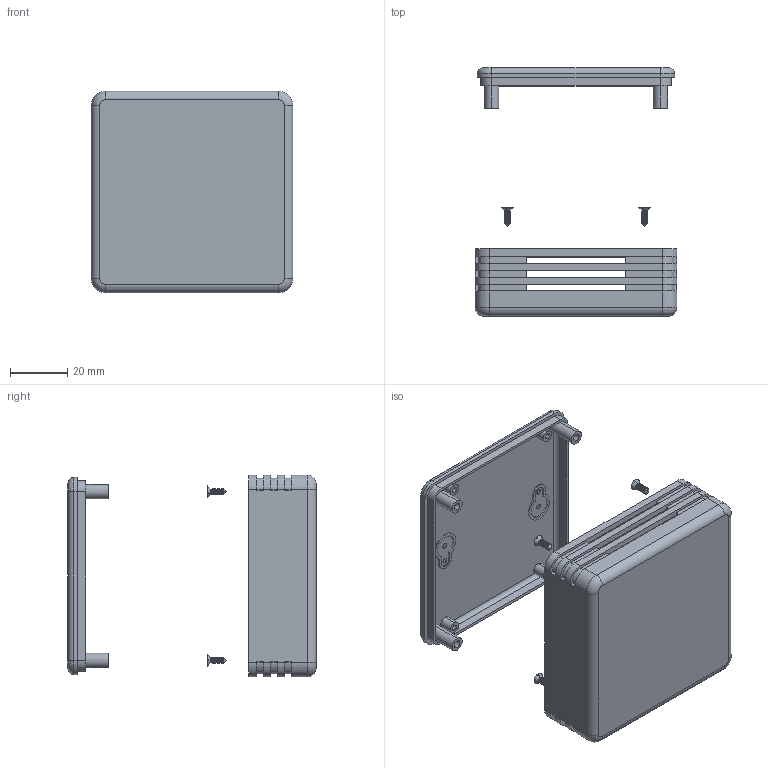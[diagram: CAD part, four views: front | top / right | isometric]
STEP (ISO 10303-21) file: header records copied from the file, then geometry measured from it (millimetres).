
FILE_DESCRIPTION (( 'STEP AP214' ), '1' );
FILE_NAME ('Conjunt PP42.STEP', '2016-09-09T10:06:33', ( 'aaa' ), ( '' ), 'SwSTEP 2.0', 'SolidWorks 2013', '' );
FILE_SCHEMA (( 'AUTOMOTIVE_DESIGN' ));
Length unit declared in the file: millimetre
Products named in the file (4): Cargol 2,2x6,95 pp42; Tapa PP42; Cos PP42; Conjunt PP42
Assembly tree (6 placements, depth 2):
  Conjunt PP42
    Cos PP42
    Tapa PP42
    Cargol 2,2x6,95 pp42  x4
Bounding box: 70.5 x 86.75 x 70.5 mm (x, y, z)
Volume: 30207.9 mm3; surface area: 36763.3 mm2
Topology: 6 solids, 6 shells, 532 faces, 1280 edges, 780 vertices
Faces by surface type: plane 196, cone 176, cylinder 136, torus 12, bspline 12
Entity records: 11414 total; most frequent: CARTESIAN_POINT 2416, DIRECTION 1938, ORIENTED_EDGE 1800, EDGE_CURVE 900, AXIS2_PLACEMENT_3D 703, VERTEX_POINT 573, LINE 532, VECTOR 532
